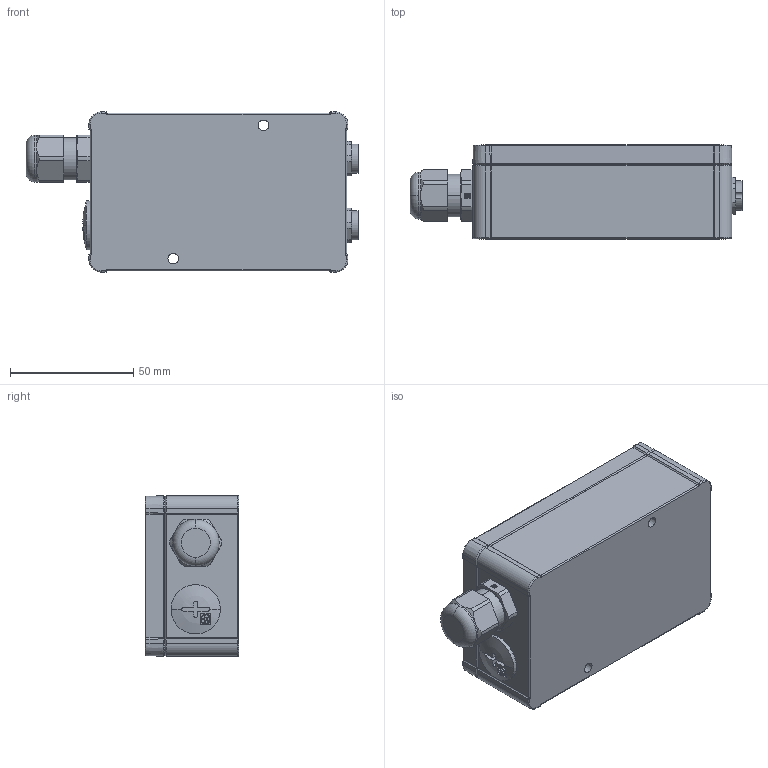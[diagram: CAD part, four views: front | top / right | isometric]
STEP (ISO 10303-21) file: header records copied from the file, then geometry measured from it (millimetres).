
FILE_DESCRIPTION((''),'2;1');
FILE_NAME('0000205221_SW0001','2020-03-02T11:35:28',('11000775'),(''),'CREO PARAMETRIC BY PTC INC, 2019030','CREO PARAMETRIC BY PTC INC, 2019030','');
FILE_SCHEMA(('AUTOMOTIVE_DESIGN { 1 0 10303 214 1 1 1 1 }'));
Length unit declared in the file: millimetre
Products named in the file (1): 0000205221_SW0001
Bounding box: 134.6 x 38 x 65 mm (x, y, z)
Volume: 256080.8 mm3; surface area: 31223.2 mm2
Topology: 1 solids, 1 shells, 717 faces, 1794 edges, 1104 vertices
Faces by surface type: plane 282, cone 190, cylinder 180, torus 62, sphere 3
Entity records: 35961 total; most frequent: CARTESIAN_POINT 6436, DIRECTION 3684, ORIENTED_EDGE 3548, PRESENTATION_STYLE_ASSIGNMENT 2496, STYLED_ITEM 1779, CURVE_STYLE 1778, EDGE_CURVE 1774, AXIS2_PLACEMENT_3D 1457
